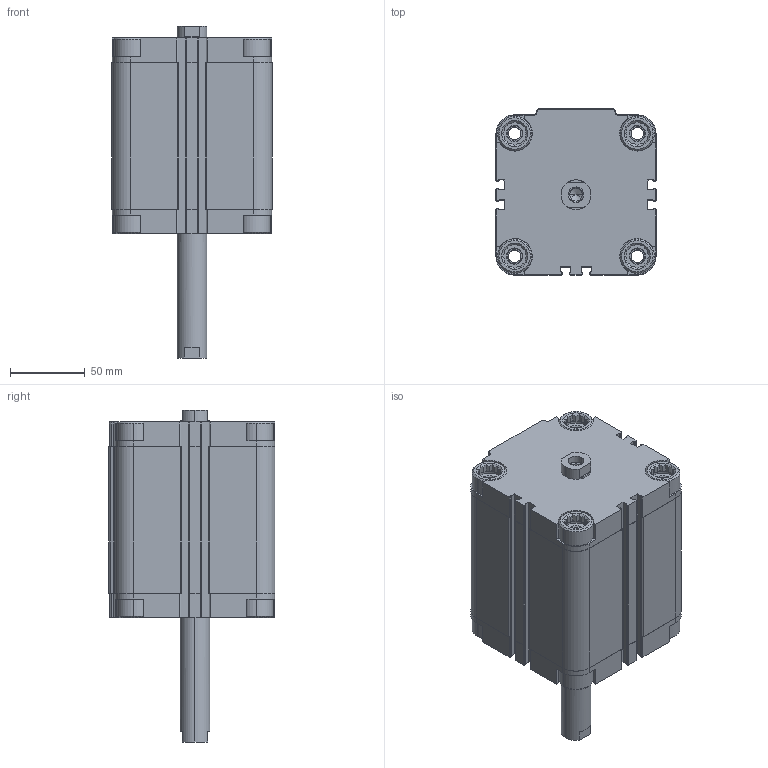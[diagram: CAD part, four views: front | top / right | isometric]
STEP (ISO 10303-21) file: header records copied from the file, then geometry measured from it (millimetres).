
FILE_DESCRIPTION (( 'STEP AP203' ), '1' );
FILE_NAME ('CDVU80-75F-P.STEP', '2020-07-24T18:40:48', ( '' ), ( '' ), 'SwSTEP 2.0', 'SolidWorks 2019', '' );
FILE_SCHEMA (( 'CONFIG_CONTROL_DESIGN' ));
Length unit declared in the file: millimetre
Products named in the file (1): CDVU80-75F-P
Bounding box: 107 x 111 x 222 mm (x, y, z)
Volume: 1067237.8 mm3; surface area: 177053.4 mm2
Topology: 2 solids, 2 shells, 670 faces, 1812 edges, 1188 vertices
Faces by surface type: plane 394, cylinder 212, cone 64
Entity records: 21267 total; most frequent: CARTESIAN_POINT 4239, ORIENTED_EDGE 3608, DIRECTION 3458, EDGE_CURVE 1804, VERTEX_POINT 1188, AXIS2_PLACEMENT_3D 1175, LINE 1108, VECTOR 1108
